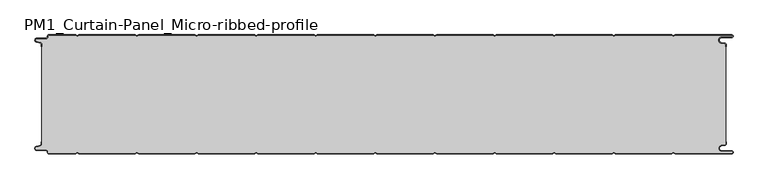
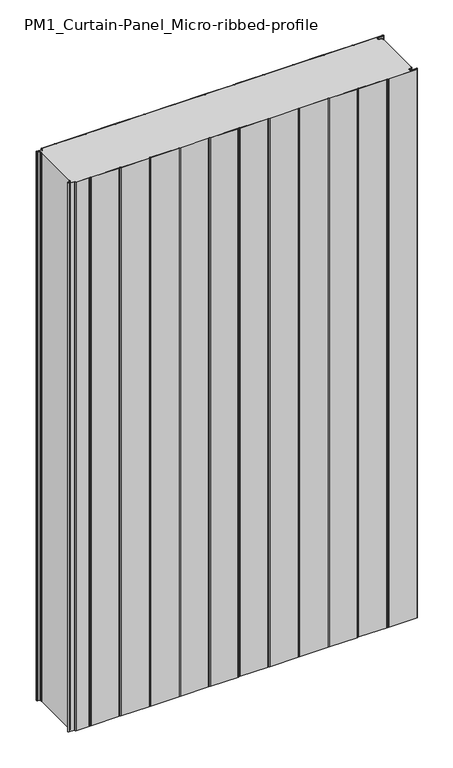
"""IFC4 building model written with IfcOpenShell, lengths in millimetres: plate geometry, PM1_Curtain-Panel_Micro-ribbed-profile : ACH_PM1_Stone-wool-Panel_200M."""

from ifc_helpers import new_model, si_unit, point, frame_2d, origin, origin_with_axes, place, context, project, spatial, polyline, circle_curve, trimmed, segment, composite_curve, outline, extrude, source, transform, mapped, element, save


def pm1_curtain_panel_micro_ribbed_profile_30c74792(model_context):
    return source(origin(), model_context, "Body", "SweptSolid", [
        extrude(outline(composite_curve([segment(trimmed(circle_curve(frame_2d((-577.0, -15.878557)), 2.0), [point((-575.0, -15.878557))], [point((-576.5500978, -13.9298169))], True, "CARTESIAN"), True, "CONTINUOUS"), segment(polyline([(-576.5500978, -13.9298169), (-582.7098239, -12.507732)]), True, "CONTINUOUS"), segment(trimmed(circle_curve(frame_2d((-581.9, -9.0)), 3.6), [point((-582.7098239, -12.507732))], [point((-581.9, -5.4))], False, "CARTESIAN"), True, "CONTINUOUS"), segment(polyline([(-581.9, -5.4), (-566.4, -5.4)]), True, "CONTINUOUS"), segment(trimmed(circle_curve(frame_2d((-566.4, -3.4)), 2.0), [point((-566.4, -5.4))], [point((-564.4, -3.4))], True, "CARTESIAN"), True, "CONTINUOUS"), segment(polyline([(-564.4, -3.4), (-564.4, -2.0)]), True, "CONTINUOUS"), segment(trimmed(circle_curve(frame_2d((-562.4, -2.0)), 2.0), [point((-564.4, -2.0))], [point((-562.4, 0.0))], False, "CARTESIAN"), True, "CONTINUOUS"), segment(polyline([(-562.4, 0.0), (-517.0999995, 0.0), (-514.4, -1.5588455), (-511.7000005, 0.0), (-417.0999995, 0.0), (-414.4, -1.5588455), (-411.7000005, 0.0), (-317.0999995, 0.0), (-314.4, -1.5588455), (-311.7000005, 0.0), (-217.0999995, 0.0), (-214.4, -1.5588455), (-211.7000005, 0.0), (-117.0999995, 0.0), (-114.4, -1.5588455), (-111.7000005, 0.0), (-17.0999995, 0.0), (-14.4, -1.5588455), (-11.7000005, 0.0), (82.9000005, 0.0), (85.6, -1.5588455), (88.2999995, 0.0), (182.9000005, 0.0), (185.6, -1.5588455), (188.2999995, 0.0), (282.9000005, 0.0), (285.6, -1.5588455), (288.2999995, 0.0), (382.9000005, 0.0), (385.6, -1.5588455), (388.2999995, 0.0), (482.9000005, 0.0), (485.6, -1.5588455), (488.2999995, 0.0), (583.1, 0.0)]), True, "CONTINUOUS"), segment(trimmed(circle_curve(frame_2d((583.1, -2.5)), 2.5), [point((583.1, 0.0))], [point((583.1, -5.0))], False, "CARTESIAN"), True, "CONTINUOUS"), segment(polyline([(583.1, -5.0), (566.1, -5.0)]), True, "CONTINUOUS"), segment(trimmed(circle_curve(frame_2d((566.1, -9.0)), 4.0), [point((566.1, -5.0))], [point((565.405407, -12.939231))], True, "CARTESIAN"), True, "CONTINUOUS"), segment(polyline([(565.405407, -12.939231), (571.8514855, -14.0758491)]), True, "CONTINUOUS"), segment(trimmed(circle_curve(frame_2d((571.4, -16.6363492)), 2.6), [point((571.8514855, -14.0758491))], [point((574.0, -16.6363492))], False, "CARTESIAN"), True, "CONTINUOUS"), segment(polyline([(574.0, -16.6363492), (574.0, -20.0), (573.2, -20.0), (573.2, -16.6363492)]), True, "CONTINUOUS"), segment(trimmed(circle_curve(frame_2d((571.4, -16.6363492)), 1.8), [point((573.2, -16.6363492))], [point((571.7125669, -14.8636953))], True, "CARTESIAN"), True, "CONTINUOUS"), segment(polyline([(571.7125669, -14.8636953), (565.2664884, -13.7270772)]), True, "CONTINUOUS"), segment(trimmed(circle_curve(frame_2d((566.1, -9.0)), 4.8), [point((565.2664884, -13.7270772))], [point((566.1, -4.2))], False, "CARTESIAN"), True, "CONTINUOUS"), segment(polyline([(566.1, -4.2), (583.1, -4.2)]), True, "CONTINUOUS"), segment(trimmed(circle_curve(frame_2d((583.1, -2.5)), 1.7), [point((583.1, -4.2))], [point((583.1, -0.8))], True, "CARTESIAN"), True, "CONTINUOUS"), segment(polyline([(583.1, -0.8), (488.5143588, -0.8), (485.6, -2.482606), (482.6856412, -0.8), (388.5143588, -0.8), (385.6, -2.482606), (382.6856412, -0.8), (288.5143588, -0.8), (285.6, -2.482606), (282.6856412, -0.8), (188.5143588, -0.8), (185.6, -2.482606), (182.6856412, -0.8), (88.5143588, -0.8), (85.6, -2.482606), (82.6856412, -0.8), (-11.4856412, -0.8), (-14.4, -2.482606), (-17.3143588, -0.8), (-111.4856412, -0.8), (-114.4, -2.482606), (-117.3143588, -0.8), (-211.4856412, -0.8), (-214.4, -2.482606), (-217.3143588, -0.8), (-311.4856412, -0.8), (-314.4, -2.482606), (-317.3143588, -0.8), (-411.4856412, -0.8), (-414.4, -2.482606), (-417.3143588, -0.8), (-511.4856412, -0.8), (-514.4, -2.482606), (-517.3143588, -0.8), (-562.4, -0.8)]), True, "CONTINUOUS"), segment(trimmed(circle_curve(frame_2d((-562.4, -2.0)), 1.2), [point((-562.4, -0.8))], [point((-563.6, -2.0))], True, "CARTESIAN"), True, "CONTINUOUS"), segment(polyline([(-563.6, -2.0), (-563.6, -3.4)]), True, "CONTINUOUS"), segment(trimmed(circle_curve(frame_2d((-566.4, -3.4)), 2.8), [point((-563.6, -3.4))], [point((-566.4, -6.2))], False, "CARTESIAN"), True, "CONTINUOUS"), segment(polyline([(-566.4, -6.2), (-581.9, -6.2)]), True, "CONTINUOUS"), segment(trimmed(circle_curve(frame_2d((-581.9, -9.0)), 2.8), [point((-581.9, -6.2))], [point((-582.529863, -11.7282362))], True, "CARTESIAN"), True, "CONTINUOUS"), segment(polyline([(-582.529863, -11.7282362), (-576.370137, -13.150321)]), True, "CONTINUOUS"), segment(trimmed(circle_curve(frame_2d((-577.0, -15.878557)), 2.8), [point((-576.370137, -13.150321))], [point((-574.2, -15.878557))], False, "CARTESIAN"), True, "CONTINUOUS"), segment(polyline([(-574.2, -15.878557), (-574.2, -20.0), (-575.0, -20.0), (-575.0, -15.878557)]), True, "CONTINUOUS")], self_intersect=False)), origin_with_axes(), (0.0, 0.0, 1.0), 1945.7507136),
        extrude(outline(composite_curve([segment(polyline([(-574.2, -184.1214426), (-574.2, -15.8785573)]), True, "CONTINUOUS"), segment(trimmed(circle_curve(frame_2d((-577.0, -15.8785573)), 2.8), [point((-574.2, -15.8785573))], [point((-576.370137, -13.1503212))], True, "CARTESIAN"), True, "CONTINUOUS"), segment(polyline([(-576.370137, -13.1503212), (-582.5298631, -11.7282362)]), True, "CONTINUOUS"), segment(trimmed(circle_curve(frame_2d((-581.9, -9.0)), 2.8), [point((-582.5298631, -11.7282362))], [point((-581.9, -6.2))], False, "CARTESIAN"), True, "CONTINUOUS"), segment(polyline([(-581.9, -6.2), (-566.4000001, -6.2)]), True, "CONTINUOUS"), segment(trimmed(circle_curve(frame_2d((-566.4000001, -3.4)), 2.8), [point((-566.4000001, -6.2))], [point((-563.6000001, -3.4))], True, "CARTESIAN"), True, "CONTINUOUS"), segment(polyline([(-563.6000001, -3.4), (-563.6000001, -2.0)]), True, "CONTINUOUS"), segment(trimmed(circle_curve(frame_2d((-562.4000001, -2.0)), 1.2), [point((-563.6000001, -2.0))], [point((-562.4000001, -0.8))], False, "CARTESIAN"), True, "CONTINUOUS"), segment(polyline([(-562.4000001, -0.8), (-517.3143589, -0.8), (-514.4000001, -2.482606), (-511.4856412, -0.8), (-417.3143589, -0.8), (-414.4000001, -2.482606), (-411.4856412, -0.8), (-317.3143589, -0.8), (-314.4000001, -2.482606), (-311.4856412, -0.8), (-217.3143589, -0.8), (-214.4000001, -2.482606), (-211.4856412, -0.8), (-117.3143589, -0.8), (-114.4000001, -2.482606), (-111.4856412, -0.8), (-17.3143589, -0.8), (-14.4000001, -2.482606), (-11.4856412, -0.8), (82.6856411, -0.8), (85.5999999, -2.482606), (88.5143588, -0.8), (182.6856411, -0.8), (185.5999999, -2.482606), (188.5143588, -0.8), (282.6856411, -0.8), (285.5999999, -2.482606), (288.5143588, -0.8), (382.6856411, -0.8), (385.5999999, -2.482606), (388.5143588, -0.8), (482.6856411, -0.8), (485.6, -2.482606), (488.5143588, -0.8), (583.1, -0.8)]), True, "CONTINUOUS"), segment(trimmed(circle_curve(frame_2d((583.1, -2.5)), 1.7), [point((583.1, -0.8))], [point((583.1, -4.2))], False, "CARTESIAN"), True, "CONTINUOUS"), segment(polyline([(583.1, -4.2), (566.1, -4.2)]), True, "CONTINUOUS"), segment(trimmed(circle_curve(frame_2d((566.1, -9.0)), 4.8), [point((566.1, -4.2))], [point((565.2664883, -13.7270771))], True, "CARTESIAN"), True, "CONTINUOUS"), segment(polyline([(565.2664883, -13.7270771), (571.7125668, -14.8636953)]), True, "CONTINUOUS"), segment(trimmed(circle_curve(frame_2d((571.4, -16.6363492)), 1.8), [point((571.7125668, -14.8636953))], [point((573.2, -16.6363492))], False, "CARTESIAN"), True, "CONTINUOUS"), segment(polyline([(573.2, -16.6363492), (573.2, -183.3636508)]), True, "CONTINUOUS"), segment(trimmed(circle_curve(frame_2d((571.4, -183.3636508)), 1.8), [point((573.2, -183.3636508))], [point((571.7125668, -185.1363047))], False, "CARTESIAN"), True, "CONTINUOUS"), segment(polyline([(571.7125668, -185.1363047), (565.2664883, -186.2729229)]), True, "CONTINUOUS"), segment(trimmed(circle_curve(frame_2d((566.1, -191.0)), 4.8), [point((565.2664883, -186.2729229))], [point((566.1, -195.8))], True, "CARTESIAN"), True, "CONTINUOUS"), segment(polyline([(566.1, -195.8), (583.1, -195.8)]), True, "CONTINUOUS"), segment(trimmed(circle_curve(frame_2d((583.1, -197.5)), 1.7), [point((583.1, -195.8))], [point((583.1, -199.2))], False, "CARTESIAN"), True, "CONTINUOUS"), segment(polyline([(583.1, -199.2), (488.5143588, -199.2), (485.6, -197.517394), (482.6856411, -199.2), (388.5143588, -199.2), (385.5999999, -197.517394), (382.6856411, -199.2), (288.5143588, -199.2), (285.5999999, -197.517394), (282.6856411, -199.2), (188.5143588, -199.2), (185.5999999, -197.517394), (182.6856411, -199.2), (88.5143588, -199.2), (85.5999999, -197.517394), (82.6856411, -199.2), (-11.4856412, -199.2), (-14.4000001, -197.517394), (-17.3143589, -199.2), (-111.4856412, -199.2), (-114.4000001, -197.517394), (-117.3143589, -199.2), (-211.4856412, -199.2), (-214.4000001, -197.517394), (-217.3143589, -199.2), (-311.4856412, -199.2), (-314.4000001, -197.517394), (-317.3143589, -199.2), (-411.4856412, -199.2), (-414.4000001, -197.517394), (-417.3143589, -199.2), (-511.4856412, -199.2), (-514.4000001, -197.517394), (-517.3143589, -199.2), (-562.4000001, -199.2)]), True, "CONTINUOUS"), segment(trimmed(circle_curve(frame_2d((-562.4000001, -198.0)), 1.2), [point((-562.4000001, -199.2))], [point((-563.6000001, -198.0))], False, "CARTESIAN"), True, "CONTINUOUS"), segment(polyline([(-563.6000001, -198.0), (-563.6000001, -196.6)]), True, "CONTINUOUS"), segment(trimmed(circle_curve(frame_2d((-566.4000001, -196.6)), 2.8), [point((-563.6000001, -196.6))], [point((-566.4000001, -193.8))], True, "CARTESIAN"), True, "CONTINUOUS"), segment(polyline([(-566.4000001, -193.8), (-581.9, -193.8)]), True, "CONTINUOUS"), segment(trimmed(circle_curve(frame_2d((-581.9, -191.0)), 2.8), [point((-581.9, -193.8))], [point((-582.5298631, -188.2717638))], False, "CARTESIAN"), True, "CONTINUOUS"), segment(polyline([(-582.5298631, -188.2717638), (-576.370137, -186.8496788)]), True, "CONTINUOUS"), segment(trimmed(circle_curve(frame_2d((-577.0, -184.1214426)), 2.8), [point((-576.370137, -186.8496788))], [point((-574.2, -184.1214426))], True, "CARTESIAN"), True, "CONTINUOUS")], self_intersect=False)), origin_with_axes(), (0.0, 0.0, 1.0), 1945.7507136),
        extrude(outline(composite_curve([segment(polyline([(-575.0, -184.121443), (-575.0, -180.0), (-574.2, -180.0), (-574.2, -184.121443)]), True, "CONTINUOUS"), segment(trimmed(circle_curve(frame_2d((-577.0, -184.121443)), 2.8), [point((-574.2, -184.121443))], [point((-576.370137, -186.8496792))], False, "CARTESIAN"), True, "CONTINUOUS"), segment(polyline([(-576.370137, -186.8496792), (-582.529863, -188.271764)]), True, "CONTINUOUS"), segment(trimmed(circle_curve(frame_2d((-581.9, -191.0)), 2.8), [point((-582.529863, -188.271764))], [point((-581.9, -193.8))], True, "CARTESIAN"), True, "CONTINUOUS"), segment(polyline([(-581.9, -193.8), (-566.4, -193.8)]), True, "CONTINUOUS"), segment(trimmed(circle_curve(frame_2d((-566.4, -196.6)), 2.8), [point((-566.4, -193.8))], [point((-563.6, -196.6))], False, "CARTESIAN"), True, "CONTINUOUS"), segment(polyline([(-563.6, -196.6), (-563.6, -198.0)]), True, "CONTINUOUS"), segment(trimmed(circle_curve(frame_2d((-562.4, -198.0)), 1.2), [point((-563.6, -198.0))], [point((-562.4, -199.2))], True, "CARTESIAN"), True, "CONTINUOUS"), segment(polyline([(-562.4, -199.2), (-517.3143588, -199.2), (-514.4, -197.517394), (-511.4856412, -199.2), (-417.3143588, -199.2), (-414.4, -197.517394), (-411.4856412, -199.2), (-317.3143588, -199.2), (-314.4, -197.517394), (-311.4856412, -199.2), (-217.3143588, -199.2), (-214.4, -197.517394), (-211.4856412, -199.2), (-117.3143588, -199.2), (-114.4, -197.517394), (-111.4856412, -199.2), (-17.3143588, -199.2), (-14.4, -197.517394), (-11.4856412, -199.2), (82.6856412, -199.2), (85.6, -197.517394), (88.5143588, -199.2), (182.6856412, -199.2), (185.6, -197.517394), (188.5143588, -199.2), (282.6856412, -199.2), (285.6, -197.517394), (288.5143588, -199.2), (382.6856412, -199.2), (385.6, -197.517394), (388.5143588, -199.2), (482.6856412, -199.2), (485.6, -197.517394), (488.5143588, -199.2), (583.1, -199.2)]), True, "CONTINUOUS"), segment(trimmed(circle_curve(frame_2d((583.1, -197.5)), 1.7), [point((583.1, -199.2))], [point((583.1, -195.8))], True, "CARTESIAN"), True, "CONTINUOUS"), segment(polyline([(583.1, -195.8), (566.1, -195.8)]), True, "CONTINUOUS"), segment(trimmed(circle_curve(frame_2d((566.1, -191.0)), 4.8), [point((566.1, -195.8))], [point((565.2664884, -186.2729229))], False, "CARTESIAN"), True, "CONTINUOUS"), segment(polyline([(565.2664884, -186.2729229), (571.7125669, -185.1363047)]), True, "CONTINUOUS"), segment(trimmed(circle_curve(frame_2d((571.4, -183.3636508)), 1.8), [point((571.7125669, -185.1363047))], [point((573.2, -183.3636508))], True, "CARTESIAN"), True, "CONTINUOUS"), segment(polyline([(573.2, -183.3636508), (573.2, -180.0), (574.0, -180.0), (574.0, -183.3636508)]), True, "CONTINUOUS"), segment(trimmed(circle_curve(frame_2d((571.4, -183.3636508)), 2.6), [point((574.0, -183.3636508))], [point((571.8514855, -185.9241509))], False, "CARTESIAN"), True, "CONTINUOUS"), segment(polyline([(571.8514855, -185.9241509), (565.405407, -187.060769)]), True, "CONTINUOUS"), segment(trimmed(circle_curve(frame_2d((566.1, -191.0)), 4.0), [point((565.405407, -187.060769))], [point((566.1, -195.0))], True, "CARTESIAN"), True, "CONTINUOUS"), segment(polyline([(566.1, -195.0), (583.1, -195.0)]), True, "CONTINUOUS"), segment(trimmed(circle_curve(frame_2d((583.1, -197.5)), 2.5), [point((583.1, -195.0))], [point((583.1, -200.0))], False, "CARTESIAN"), True, "CONTINUOUS"), segment(polyline([(583.1, -200.0), (488.2999995, -200.0), (485.6, -198.4411545), (482.9000005, -200.0), (388.2999995, -200.0), (385.6, -198.4411545), (382.9000005, -200.0), (288.2999995, -200.0), (285.6, -198.4411545), (282.9000005, -200.0), (188.2999995, -200.0), (185.6, -198.4411545), (182.9000005, -200.0), (88.2999995, -200.0), (85.6, -198.4411545), (82.9000005, -200.0), (-11.7000005, -200.0), (-14.4, -198.4411545), (-17.0999995, -200.0), (-111.7000005, -200.0), (-114.4, -198.4411545), (-117.0999995, -200.0), (-211.7000005, -200.0), (-214.4, -198.4411545), (-217.0999995, -200.0), (-311.7000005, -200.0), (-314.4, -198.4411545), (-317.0999995, -200.0), (-411.7000005, -200.0), (-414.4, -198.4411545), (-417.0999995, -200.0), (-511.7000005, -200.0), (-514.4, -198.4411545), (-517.0999995, -200.0), (-562.4, -200.0)]), True, "CONTINUOUS"), segment(trimmed(circle_curve(frame_2d((-562.4, -198.0)), 2.0), [point((-562.4, -200.0))], [point((-564.4, -198.0))], False, "CARTESIAN"), True, "CONTINUOUS"), segment(polyline([(-564.4, -198.0), (-564.4, -196.6)]), True, "CONTINUOUS"), segment(trimmed(circle_curve(frame_2d((-566.4, -196.6)), 2.0), [point((-564.4, -196.6))], [point((-566.4, -194.6))], True, "CARTESIAN"), True, "CONTINUOUS"), segment(polyline([(-566.4, -194.6), (-581.9, -194.6)]), True, "CONTINUOUS"), segment(trimmed(circle_curve(frame_2d((-581.9, -191.0)), 3.6), [point((-581.9, -194.6))], [point((-582.7098239, -187.4922678))], False, "CARTESIAN"), True, "CONTINUOUS"), segment(polyline([(-582.7098239, -187.4922678), (-576.5500979, -186.070183)]), True, "CONTINUOUS"), segment(trimmed(circle_curve(frame_2d((-577.0, -184.121443)), 2.0), [point((-576.5500979, -186.070183))], [point((-575.0, -184.121443))], True, "CARTESIAN"), True, "CONTINUOUS")], self_intersect=False)), origin_with_axes(), (0.0, 0.0, 1.0), 1945.7507136),
    ])


if __name__ == "__main__":
    model = new_model("IFC4")
    model_context = context("Model", 3, world=origin())
    ifc_project = project(units=[si_unit("LENGTHUNIT", "METRE", prefix="MILLI")], contexts=[model_context])
    site = spatial("IfcSite", under=ifc_project)
    building = spatial("IfcBuilding", under=site)
    placement = place(None, origin())
    pm1_curtain_panel_micro_ribbed_profile_shape = pm1_curtain_panel_micro_ribbed_profile_30c74792(model_context)
    element("IfcPlate", 1, ObjectType="PM1_Curtain-Panel_Micro-ribbed-profile : ACH_PM1_Stone-wool-Panel_200M", at=placement, inside=building, context=model_context, shape_type="MappedRepresentation", body=[
        mapped(pm1_curtain_panel_micro_ribbed_profile_shape, transform((0.0, 0.0, 0.0), x_axis=(1.0, 0.0, 0.0), y_axis=(0.0, 1.0, 0.0), z_axis=(0.0, 0.0, 1.0))),
    ])
    save(model, "model.ifc")
